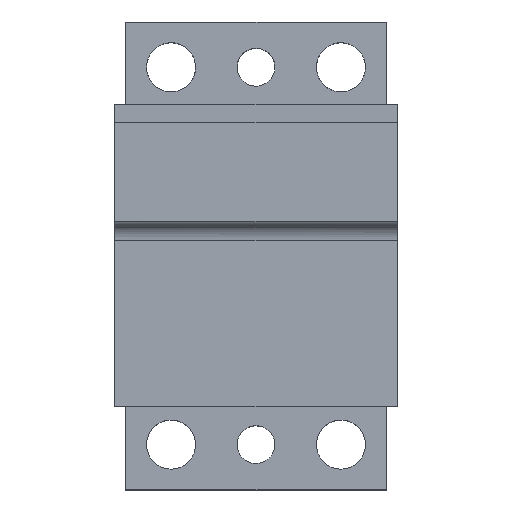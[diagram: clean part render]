
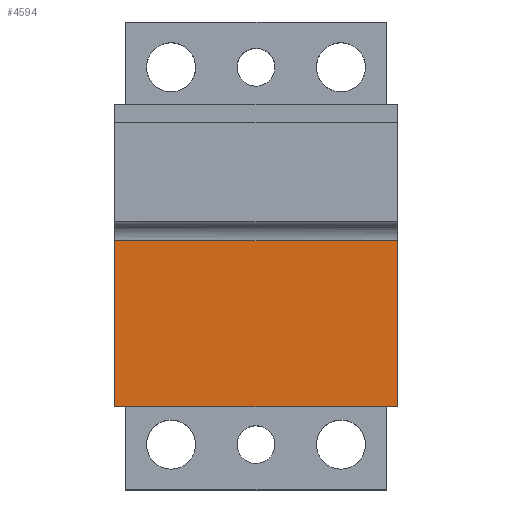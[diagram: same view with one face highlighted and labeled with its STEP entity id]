
A CAD part, top view. The second image highlights one B-rep face of the part: STEP entity #4594.
In plain terms, the highlighted planar face has unit normal (0, 0, 1).
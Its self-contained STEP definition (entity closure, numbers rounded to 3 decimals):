
#423 = EDGE_CURVE ( 'NONE', #5817, #7717, #12954, .T. ) ;
#508 = LINE ( 'NONE', #520, #11069 ) ;
#520 = CARTESIAN_POINT ( 'NONE',  ( 0., -49., -74. ) ) ;
#1969 = DIRECTION ( 'NONE',  ( -1., 0., 0. ) ) ;
#2027 = CARTESIAN_POINT ( 'NONE',  ( -37.5, -5., -74. ) ) ;
#2379 = FACE_OUTER_BOUND ( 'NONE', #12115, .T. ) ;
#3076 = ORIENTED_EDGE ( 'NONE', *, *, #6943, .F. ) ;
#3649 = VERTEX_POINT ( 'NONE', #10856 ) ;
#3922 = LINE ( 'NONE', #4617, #8588 ) ;
#4286 = PLANE ( 'NONE',  #13596 ) ;
#4374 = ORIENTED_EDGE ( 'NONE', *, *, #15592, .T. ) ;
#4594 = ADVANCED_FACE ( 'NONE', ( #2379 ), #4286, .F. ) ;
#4617 = CARTESIAN_POINT ( 'NONE',  ( 0., -5., -74. ) ) ;
#4787 = CARTESIAN_POINT ( 'NONE',  ( 37.5, -27., -74. ) ) ;
#5817 = VERTEX_POINT ( 'NONE', #8819 ) ;
#6493 = LINE ( 'NONE', #8764, #9469 ) ;
#6856 = ORIENTED_EDGE ( 'NONE', *, *, #7535, .F. ) ;
#6943 = EDGE_CURVE ( 'NONE', #7717, #3649, #508, .T. ) ;
#7156 = DIRECTION ( 'NONE',  ( 0., -1., 0. ) ) ;
#7236 = DIRECTION ( 'NONE',  ( 0., 1., 0. ) ) ;
#7535 = EDGE_CURVE ( 'NONE', #3649, #15639, #6493, .T. ) ;
#7558 = CARTESIAN_POINT ( 'NONE',  ( 37.5, -49., -74. ) ) ;
#7717 = VERTEX_POINT ( 'NONE', #7558 ) ;
#8588 = VECTOR ( 'NONE', #1969, 1000. ) ;
#8764 = CARTESIAN_POINT ( 'NONE',  ( -37.5, -27., -74. ) ) ;
#8819 = CARTESIAN_POINT ( 'NONE',  ( 37.5, -5., -74. ) ) ;
#9469 = VECTOR ( 'NONE', #7236, 1000. ) ;
#9833 = ORIENTED_EDGE ( 'NONE', *, *, #423, .F. ) ;
#9921 = DIRECTION ( 'NONE',  ( 0., -1., 0. ) ) ;
#10168 = CARTESIAN_POINT ( 'NONE',  ( 41.25, -2.8, -74. ) ) ;
#10856 = CARTESIAN_POINT ( 'NONE',  ( -37.5, -49., -74. ) ) ;
#11069 = VECTOR ( 'NONE', #13840, 1000. ) ;
#11549 = VECTOR ( 'NONE', #7156, 1000. ) ;
#12115 = EDGE_LOOP ( 'NONE', ( #9833, #4374, #6856, #3076 ) ) ;
#12954 = LINE ( 'NONE', #4787, #11549 ) ;
#13596 = AXIS2_PLACEMENT_3D ( 'NONE', #10168, #17619, #9921 ) ;
#13840 = DIRECTION ( 'NONE',  ( -1., 0., 0. ) ) ;
#15592 = EDGE_CURVE ( 'NONE', #5817, #15639, #3922, .T. ) ;
#15639 = VERTEX_POINT ( 'NONE', #2027 ) ;
#17619 = DIRECTION ( 'NONE',  ( 0., 0., -1. ) ) ;
